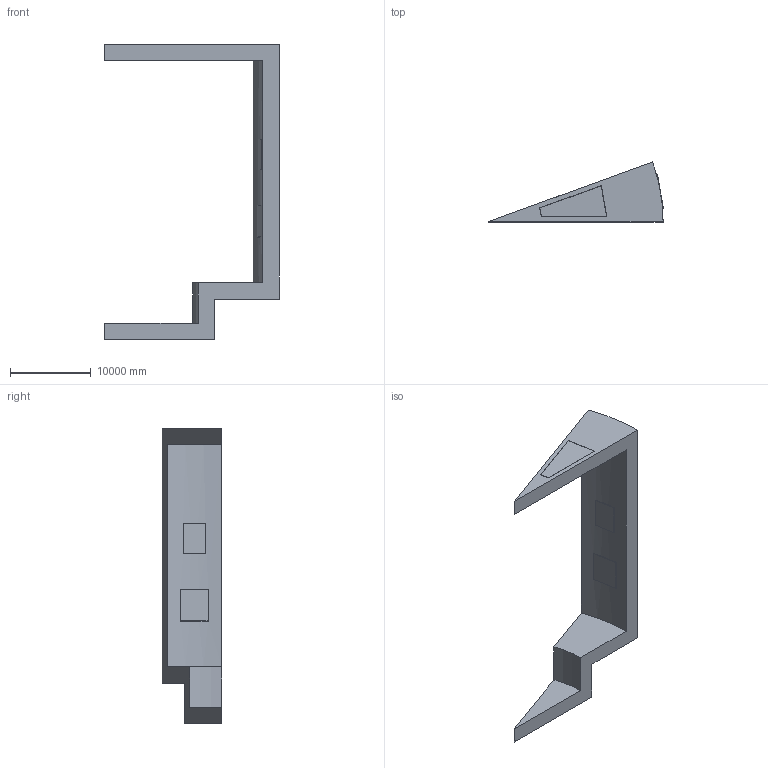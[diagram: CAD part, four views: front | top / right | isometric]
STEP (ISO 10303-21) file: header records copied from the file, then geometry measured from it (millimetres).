
FILE_DESCRIPTION(('FreeCAD Model'),'2;1');
FILE_NAME('Open CASCADE Shape Model','2026-10-11T08:37:00',('Bluemira'), ('Bluemira'),'Open CASCADE STEP processor 7.8','FreeCAD','Unknown');
FILE_SCHEMA(('AP242_MANAGED_MODEL_BASED_3D_ENGINEERING_MIM_LF. {1 0 10303 442 1 1 4 }'));
Length unit declared in the file: metre
Products named in the file (5): Unnamed; Body_1_1; RadiationPortPlug_0_1; RadiationPortPlug_1_1; RadiationPortPlug_2_1
Assembly tree (4 placements, depth 2):
  Unnamed
    Body_1_1
    RadiationPortPlug_0_1
    RadiationPortPlug_1_1
    RadiationPortPlug_2_1
Bounding box: 21649.77 x 7392.24 x 36520.09 mm (x, y, z)
Volume: 766309779653 mm3; surface area: 1313165937.9 mm2
Topology: 4 solids, 4 shells, 162 faces, 394 edges, 264 vertices
Faces by surface type: plane 158, cylinder 4
Entity records: 9882 total; most frequent: CARTESIAN_POINT 1665, DIRECTION 1514, LINE 1126, VECTOR 1126, ORIENTED_EDGE 788, PCURVE 788, DEFINITIONAL_REPRESENTATION 788, EDGE_CURVE 394
